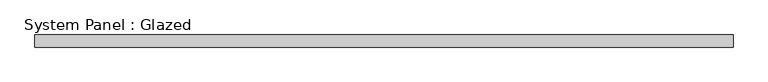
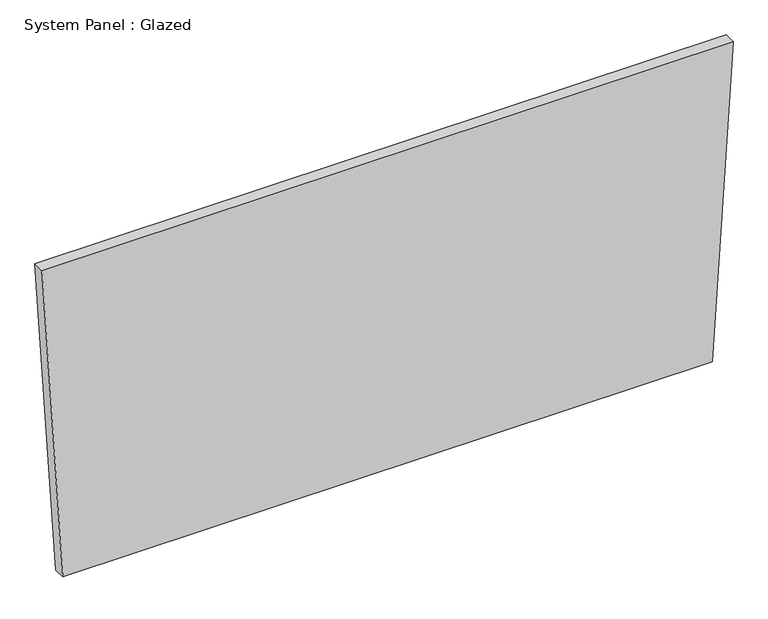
"""IFC4 building model written with IfcOpenShell, lengths in millimetres: plate geometry, System Panel : Glazed."""

from ifc_helpers import new_model, si_unit, frame, origin, place, context, project, spatial, polyline, outline, extrude, source, transform, mapped, element, save


def system_panel_glazed_6e2a4878(model_context):
    return source(origin(), model_context, "Body", "SweptSolid", [
        extrude(outline(polyline([(0.000237, -688.9756717), (0.0, 688.9756568), (702.5921596, 733.3339913), (702.5921596, -733.3339913), (0.000237, -688.9756717)])), frame((0.0, 19.05, 0.0), z_axis=(0.0, 1.0, 0.0), x_axis=(0.0, 0.0, 1.0)), (0.0, 0.0, 1.0), 25.4),
    ])


if __name__ == "__main__":
    model = new_model("IFC4")
    model_context = context("Model", 3, world=origin())
    ifc_project = project(units=[si_unit("LENGTHUNIT", "METRE", prefix="MILLI")], contexts=[model_context])
    site = spatial("IfcSite", under=ifc_project)
    building = spatial("IfcBuilding", under=site)
    placement = place(None, origin())
    system_panel_glazed_shape = system_panel_glazed_6e2a4878(model_context)
    element("IfcPlate", 1, ObjectType="System Panel : Glazed", at=placement, inside=building, context=model_context, shape_type="MappedRepresentation", body=[
        mapped(system_panel_glazed_shape, transform((0.0, 0.0, 0.0), x_axis=(1.0, 0.0, 0.0), y_axis=(0.0, 1.0, 0.0), z_axis=(0.0, 0.0, 1.0))),
    ])
    save(model, "model.ifc")
